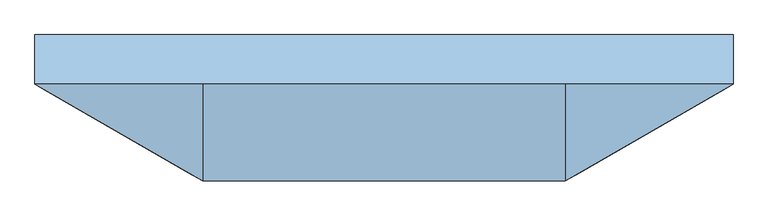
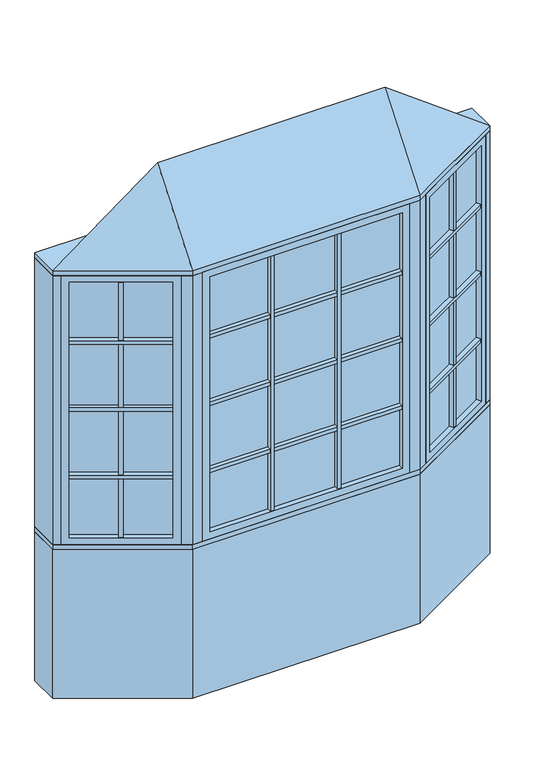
"""IFC4 building model written with IfcOpenShell, lengths in millimetres: window geometry, Pollard_Windows_Tudor Casement Bows and Bays : AML-BAY 30 AFR0614-10-500_GC."""

from ifc_helpers import new_model, si_unit, frame, origin, origin_with_axes, place, context, project, spatial, polyline, outline, extrude, faceted_brep, source, transform, mapped, element, save


def window_aa42a1c5(model_context):
    return source(origin(), model_context, "Body", "SolidModel", [
        extrude(outline(polyline([(632.2305346, -327.3537343), (621.2305346, -308.3011754), (1002.1135794, -88.3982469), (1013.1135794, -107.4508058), (632.2305346, -327.3537343)])), frame((0.0, 0.0, 1490.998), z_axis=(0.0, 0.0, 1.0), x_axis=(1.0, 0.0, 0.0)), (0.0, 0.0, 1.0), 18.0),
        extrude(outline(polyline([(618.6905346, -303.9017664), (607.6905346, -284.8492075), (988.5735794, -64.946279), (999.5735794, -83.9988379), (618.6905346, -303.9017664)])), frame((0.0, 0.0, 1490.998), z_axis=(0.0, 0.0, 1.0), x_axis=(1.0, 0.0, 0.0)), (0.0, 0.0, 1.0), 18.0),
        extrude(outline(polyline([(632.2305346, -327.3537343), (621.2305346, -308.3011754), (1002.1135794, -88.3982469), (1013.1135794, -107.4508058), (632.2305346, -327.3537343)])), frame((0.0, 0.0, 1140.998), z_axis=(0.0, 0.0, 1.0), x_axis=(1.0, 0.0, 0.0)), (0.0, 0.0, 1.0), 18.0),
        extrude(outline(polyline([(618.6905346, -303.9017664), (607.6905346, -284.8492075), (988.5735794, -64.946279), (999.5735794, -83.9988379), (618.6905346, -303.9017664)])), frame((0.0, 0.0, 1140.998), z_axis=(0.0, 0.0, 1.0), x_axis=(1.0, 0.0, 0.0)), (0.0, 0.0, 1.0), 18.0),
        extrude(outline(polyline([(632.2305346, -327.3537343), (621.2305346, -308.3011754), (1002.1135794, -88.3982469), (1013.1135794, -107.4508058), (632.2305346, -327.3537343)])), frame((0.0, 0.0, 1490.998), z_axis=(0.0, 0.0, 1.0), x_axis=(1.0, 0.0, 0.0)), (0.0, 0.0, 1.0), 18.0),
        extrude(outline(polyline([(618.6905346, -303.9017664), (607.6905346, -284.8492075), (988.5735794, -64.946279), (999.5735794, -83.9988379), (618.6905346, -303.9017664)])), frame((0.0, 0.0, 1490.998), z_axis=(0.0, 0.0, 1.0), x_axis=(1.0, 0.0, 0.0)), (0.0, 0.0, 1.0), 18.0),
        extrude(outline(polyline([(632.2305346, -327.3537343), (621.2305346, -308.3011754), (1002.1135794, -88.3982469), (1013.1135794, -107.4508058), (632.2305346, -327.3537343)])), frame((0.0, 0.0, 1490.998), z_axis=(0.0, 0.0, 1.0), x_axis=(1.0, 0.0, 0.0)), (0.0, 0.0, 1.0), 18.0),
        extrude(outline(polyline([(618.6905346, -303.9017664), (607.6905346, -284.8492075), (988.5735794, -64.946279), (999.5735794, -83.9988379), (618.6905346, -303.9017664)])), frame((0.0, 0.0, 1490.998), z_axis=(0.0, 0.0, 1.0), x_axis=(1.0, 0.0, 0.0)), (0.0, 0.0, 1.0), 18.0),
        extrude(outline(polyline([(632.2305346, -327.3537343), (621.2305346, -308.3011754), (1002.1135794, -88.3982469), (1013.1135794, -107.4508058), (632.2305346, -327.3537343)])), frame((0.0, 0.0, 1840.998), z_axis=(0.0, 0.0, 1.0), x_axis=(1.0, 0.0, 0.0)), (0.0, 0.0, 1.0), 18.0),
        extrude(outline(polyline([(618.6905346, -303.9017664), (607.6905346, -284.8492075), (988.5735794, -64.946279), (999.5735794, -83.9988379), (618.6905346, -303.9017664)])), frame((0.0, 0.0, 1840.998), z_axis=(0.0, 0.0, 1.0), x_axis=(1.0, 0.0, 0.0)), (0.0, 0.0, 1.0), 18.0),
        extrude(outline(polyline([(819.4662856, -193.8497112), (830.4662856, -212.9022701), (814.8778284, -221.9022701), (803.8778284, -202.8497112), (819.4662856, -193.8497112)])), frame((0.0, 0.0, 835.8628), z_axis=(0.0, 0.0, 1.0), x_axis=(1.0, 0.0, 0.0)), (0.0, 0.0, 1.0), 1328.2704),
        extrude(outline(polyline([(816.9262856, -189.4503021), (801.3378284, -198.4503021), (790.3378284, -179.3977432), (805.9262856, -170.3977432), (816.9262856, -189.4503021)])), frame((0.0, 0.0, 835.8628), z_axis=(0.0, 0.0, 1.0), x_axis=(1.0, 0.0, 0.0)), (0.0, 0.0, 1.0), 1328.2704),
        extrude(outline(polyline([(1013.112102, -82.0482469), (610.2320119, -314.6511754), (607.6920119, -310.2517664), (1010.572102, -77.6488379), (1013.112102, -82.0482469)])), frame((0.0, 0.0, 823.1628), z_axis=(0.0, 0.0, 1.0), x_axis=(1.0, 0.0, 0.0)), (0.0, 0.0, 1.0), 1353.6704),
        faceted_brep([(1002.1135794, -88.3982469, 835.8628), (1014.8135794, -110.3952922, 835.8628), (1014.8135794, -110.3952922, 2164.1332), (1002.1135794, -88.3982469, 2164.1332), (1010.572102, -77.6488379, 823.1628), (1013.112102, -82.0482469, 823.1628), (1013.112102, -82.0482469, 2176.8332), (1010.572102, -77.6488379, 2176.8332), (986.8735794, -62.0017926, 835.8628), (999.5735794, -83.9988379, 835.8628), (999.5735794, -83.9988379, 2164.1332), (986.8735794, -62.0017926, 2164.1332), (1045.8734073, -92.4628922, 799.998), (1017.9334073, -44.0693926, 799.998), (1017.9334073, -44.0693926, 2199.998), (1045.8734073, -92.4628922, 2199.998), (633.9305346, -330.2982207, 2164.1332), (621.2305346, -308.3011754, 2164.1332), (610.2320119, -314.6511754, 2176.8332), (607.6920119, -310.2517664, 2176.8332), (618.6905346, -303.9017664, 2164.1332), (605.9905346, -281.9047211, 2164.1332), (574.9307067, -299.8371211, 2199.998), (602.8707067, -348.2306207, 2199.998), (633.9305346, -330.2982207, 835.8628), (621.2305346, -308.3011754, 835.8628), (610.2320119, -314.6511754, 823.1628), (607.6920119, -310.2517664, 823.1628), (618.6905346, -303.9017664, 835.8628), (605.9905346, -281.9047211, 835.8628), (574.9307067, -299.8371211, 799.998), (602.8707067, -348.2306207, 799.998)], [[[0, 1, 2, 3]], [[4, 5, 6, 7]], [[8, 9, 10, 11]], [[12, 13, 14, 15]], [[3, 2, 16, 17]], [[7, 6, 18, 19]], [[11, 10, 20, 21]], [[15, 14, 22, 23]], [[17, 16, 24, 25]], [[19, 18, 26, 27]], [[21, 20, 28, 29]], [[23, 22, 30, 31]], [[25, 24, 1, 0]], [[5, 26, 18, 6], [3, 17, 25, 0]], [[27, 26, 5, 4]], [[7, 19, 27, 4], [9, 28, 20, 10]], [[29, 28, 9, 8]], [[13, 30, 22, 14], [11, 21, 29, 8]], [[31, 30, 13, 12]], [[15, 23, 31, 12], [1, 24, 16, 2]]]),
        extrude(outline(polyline([(174.1350122, -347.8306207), (174.1350122, -369.8306207), (156.1350122, -369.8306207), (156.1350122, -347.8306207), (174.1350122, -347.8306207)])), frame((0.0, 0.0, 835.8628), z_axis=(0.0, 0.0, 1.0), x_axis=(1.0, 0.0, 0.0)), (0.0, 0.0, 1.0), 1328.2704),
        extrude(outline(polyline([(174.1350122, -342.7506207), (156.1350122, -342.7506207), (156.1350122, -320.7506207), (174.1350122, -320.7506207), (174.1350122, -342.7506207)])), frame((0.0, 0.0, 835.8628), z_axis=(0.0, 0.0, 1.0), x_axis=(1.0, 0.0, 0.0)), (0.0, 0.0, 1.0), 1328.2704),
        extrude(outline(polyline([(-156.1350122, -347.8306207), (-156.1350122, -369.8306207), (-174.1350122, -369.8306207), (-174.1350122, -347.8306207), (-156.1350122, -347.8306207)])), frame((0.0, 0.0, 835.8628), z_axis=(0.0, 0.0, 1.0), x_axis=(1.0, 0.0, 0.0)), (0.0, 0.0, 1.0), 1328.2704),
        extrude(outline(polyline([(-156.1350122, -342.7506207), (-174.1350122, -342.7506207), (-174.1350122, -320.7506207), (-156.1350122, -320.7506207), (-156.1350122, -342.7506207)])), frame((0.0, 0.0, 835.8628), z_axis=(0.0, 0.0, 1.0), x_axis=(1.0, 0.0, 0.0)), (0.0, 0.0, 1.0), 1328.2704),
        extrude(outline(polyline([(-473.7046365, -369.8306207), (-473.7046365, -347.8306207), (473.7046365, -347.8306207), (473.7046365, -369.8306207), (-473.7046365, -369.8306207)])), frame((0.0, 0.0, 1140.998), z_axis=(0.0, 0.0, 1.0), x_axis=(1.0, 0.0, 0.0)), (0.0, 0.0, 1.0), 18.0),
        extrude(outline(polyline([(-473.7046365, -342.7506207), (-473.7046365, -320.7506207), (473.7046365, -320.7506207), (473.7046365, -342.7506207), (-473.7046365, -342.7506207)])), frame((0.0, 0.0, 1140.998), z_axis=(0.0, 0.0, 1.0), x_axis=(1.0, 0.0, 0.0)), (0.0, 0.0, 1.0), 18.0),
        extrude(outline(polyline([(-473.7046365, -369.8306207), (-473.7046365, -347.8306207), (473.7046365, -347.8306207), (473.7046365, -369.8306207), (-473.7046365, -369.8306207)])), frame((0.0, 0.0, 1490.998), z_axis=(0.0, 0.0, 1.0), x_axis=(1.0, 0.0, 0.0)), (0.0, 0.0, 1.0), 18.0),
        extrude(outline(polyline([(-473.7046365, -342.7506207), (-473.7046365, -320.7506207), (473.7046365, -320.7506207), (473.7046365, -342.7506207), (-473.7046365, -342.7506207)])), frame((0.0, 0.0, 1490.998), z_axis=(0.0, 0.0, 1.0), x_axis=(1.0, 0.0, 0.0)), (0.0, 0.0, 1.0), 18.0),
        extrude(outline(polyline([(-473.7046365, -369.8306207), (-473.7046365, -347.8306207), (473.7046365, -347.8306207), (473.7046365, -369.8306207), (-473.7046365, -369.8306207)])), frame((0.0, 0.0, 1490.998), z_axis=(0.0, 0.0, 1.0), x_axis=(1.0, 0.0, 0.0)), (0.0, 0.0, 1.0), 18.0),
        extrude(outline(polyline([(-473.7046365, -342.7506207), (-473.7046365, -320.7506207), (473.7046365, -320.7506207), (473.7046365, -342.7506207), (-473.7046365, -342.7506207)])), frame((0.0, 0.0, 1490.998), z_axis=(0.0, 0.0, 1.0), x_axis=(1.0, 0.0, 0.0)), (0.0, 0.0, 1.0), 18.0),
        extrude(outline(polyline([(-473.7046365, -369.8306207), (-473.7046365, -347.8306207), (473.7046365, -347.8306207), (473.7046365, -369.8306207), (-473.7046365, -369.8306207)])), frame((0.0, 0.0, 1490.998), z_axis=(0.0, 0.0, 1.0), x_axis=(1.0, 0.0, 0.0)), (0.0, 0.0, 1.0), 18.0),
        extrude(outline(polyline([(-473.7046365, -342.7506207), (-473.7046365, -320.7506207), (473.7046365, -320.7506207), (473.7046365, -342.7506207), (-473.7046365, -342.7506207)])), frame((0.0, 0.0, 1490.998), z_axis=(0.0, 0.0, 1.0), x_axis=(1.0, 0.0, 0.0)), (0.0, 0.0, 1.0), 18.0),
        extrude(outline(polyline([(-1013.1135794, -107.4508058), (-1002.1135794, -88.3982469), (-621.2305346, -308.3011754), (-632.2305346, -327.3537343), (-1013.1135794, -107.4508058)])), frame((0.0, 0.0, 1140.998), z_axis=(0.0, 0.0, 1.0), x_axis=(1.0, 0.0, 0.0)), (0.0, 0.0, 1.0), 18.0),
        extrude(outline(polyline([(-999.5735794, -83.9988379), (-988.5735794, -64.946279), (-607.6905346, -284.8492075), (-618.6905346, -303.9017664), (-999.5735794, -83.9988379)])), frame((0.0, 0.0, 1140.998), z_axis=(0.0, 0.0, 1.0), x_axis=(1.0, 0.0, 0.0)), (0.0, 0.0, 1.0), 18.0),
        extrude(outline(polyline([(-1013.1135794, -107.4508058), (-1002.1135794, -88.3982469), (-621.2305346, -308.3011754), (-632.2305346, -327.3537343), (-1013.1135794, -107.4508058)])), frame((0.0, 0.0, 1490.998), z_axis=(0.0, 0.0, 1.0), x_axis=(1.0, 0.0, 0.0)), (0.0, 0.0, 1.0), 18.0),
        extrude(outline(polyline([(-999.5735794, -83.9988379), (-988.5735794, -64.946279), (-607.6905346, -284.8492075), (-618.6905346, -303.9017664), (-999.5735794, -83.9988379)])), frame((0.0, 0.0, 1490.998), z_axis=(0.0, 0.0, 1.0), x_axis=(1.0, 0.0, 0.0)), (0.0, 0.0, 1.0), 18.0),
        extrude(outline(polyline([(-1013.1135794, -107.4508058), (-1002.1135794, -88.3982469), (-621.2305346, -308.3011754), (-632.2305346, -327.3537343), (-1013.1135794, -107.4508058)])), frame((0.0, 0.0, 1490.998), z_axis=(0.0, 0.0, 1.0), x_axis=(1.0, 0.0, 0.0)), (0.0, 0.0, 1.0), 18.0),
        extrude(outline(polyline([(-999.5735794, -83.9988379), (-988.5735794, -64.946279), (-607.6905346, -284.8492075), (-618.6905346, -303.9017664), (-999.5735794, -83.9988379)])), frame((0.0, 0.0, 1490.998), z_axis=(0.0, 0.0, 1.0), x_axis=(1.0, 0.0, 0.0)), (0.0, 0.0, 1.0), 18.0),
        extrude(outline(polyline([(-1013.1135794, -107.4508058), (-1002.1135794, -88.3982469), (-621.2305346, -308.3011754), (-632.2305346, -327.3537343), (-1013.1135794, -107.4508058)])), frame((0.0, 0.0, 1490.998), z_axis=(0.0, 0.0, 1.0), x_axis=(1.0, 0.0, 0.0)), (0.0, 0.0, 1.0), 18.0),
        extrude(outline(polyline([(-999.5735794, -83.9988379), (-988.5735794, -64.946279), (-607.6905346, -284.8492075), (-618.6905346, -303.9017664), (-999.5735794, -83.9988379)])), frame((0.0, 0.0, 1490.998), z_axis=(0.0, 0.0, 1.0), x_axis=(1.0, 0.0, 0.0)), (0.0, 0.0, 1.0), 18.0),
        extrude(outline(polyline([(-1013.1135794, -107.4508058), (-1002.1135794, -88.3982469), (-621.2305346, -308.3011754), (-632.2305346, -327.3537343), (-1013.1135794, -107.4508058)])), frame((0.0, 0.0, 1840.998), z_axis=(0.0, 0.0, 1.0), x_axis=(1.0, 0.0, 0.0)), (0.0, 0.0, 1.0), 18.0),
        extrude(outline(polyline([(-999.5735794, -83.9988379), (-988.5735794, -64.946279), (-607.6905346, -284.8492075), (-618.6905346, -303.9017664), (-999.5735794, -83.9988379)])), frame((0.0, 0.0, 1840.998), z_axis=(0.0, 0.0, 1.0), x_axis=(1.0, 0.0, 0.0)), (0.0, 0.0, 1.0), 18.0),
        extrude(outline(polyline([(-473.7046365, -369.8306207), (-473.7046365, -347.8306207), (473.7046365, -347.8306207), (473.7046365, -369.8306207), (-473.7046365, -369.8306207)])), frame((0.0, 0.0, 1840.998), z_axis=(0.0, 0.0, 1.0), x_axis=(1.0, 0.0, 0.0)), (0.0, 0.0, 1.0), 18.0),
        extrude(outline(polyline([(-473.7046365, -342.7506207), (-473.7046365, -320.7506207), (473.7046365, -320.7506207), (473.7046365, -342.7506207), (-473.7046365, -342.7506207)])), frame((0.0, 0.0, 1840.998), z_axis=(0.0, 0.0, 1.0), x_axis=(1.0, 0.0, 0.0)), (0.0, 0.0, 1.0), 18.0),
        extrude(outline(polyline([(-803.8778284, -202.8497112), (-814.8778284, -221.9022701), (-830.4662856, -212.9022701), (-819.4662856, -193.8497112), (-803.8778284, -202.8497112)])), frame((0.0, 0.0, 835.8628), z_axis=(0.0, 0.0, 1.0), x_axis=(1.0, 0.0, 0.0)), (0.0, 0.0, 1.0), 1328.2704),
        extrude(outline(polyline([(-801.3378284, -198.4503021), (-816.9262856, -189.4503021), (-805.9262856, -170.3977432), (-790.3378284, -179.3977432), (-801.3378284, -198.4503021)])), frame((0.0, 0.0, 835.8628), z_axis=(0.0, 0.0, 1.0), x_axis=(1.0, 0.0, 0.0)), (0.0, 0.0, 1.0), 1328.2704),
        extrude(outline(polyline([(-610.2320119, -314.6511754), (-1013.112102, -82.0482469), (-1010.572102, -77.6488379), (-607.6920119, -310.2517664), (-610.2320119, -314.6511754)])), frame((0.0, 0.0, 823.1628), z_axis=(0.0, 0.0, 1.0), x_axis=(1.0, 0.0, 0.0)), (0.0, 0.0, 1.0), 1353.6704),
        faceted_brep([(-618.6905346, -303.9017664, 2164.1332), (-605.9905346, -281.9047211, 2164.1332), (-605.9905346, -281.9047211, 835.8628), (-618.6905346, -303.9017664, 835.8628), (-610.2320119, -314.6511754, 2176.8332), (-607.6920119, -310.2517664, 2176.8332), (-607.6920119, -310.2517664, 823.1628), (-610.2320119, -314.6511754, 823.1628), (-633.9305346, -330.2982207, 2164.1332), (-621.2305346, -308.3011754, 2164.1332), (-621.2305346, -308.3011754, 835.8628), (-633.9305346, -330.2982207, 835.8628), (-574.9307067, -299.8371211, 2199.998), (-602.8707067, -348.2306207, 2199.998), (-602.8707067, -348.2306207, 799.998), (-574.9307067, -299.8371211, 799.998), (-986.8735794, -62.0017926, 835.8628), (-999.5735794, -83.9988379, 835.8628), (-1010.572102, -77.6488379, 823.1628), (-1013.112102, -82.0482469, 823.1628), (-1002.1135794, -88.3982469, 835.8628), (-1014.8135794, -110.3952922, 835.8628), (-1045.8734073, -92.4628922, 799.998), (-1017.9334073, -44.0693926, 799.998), (-986.8735794, -62.0017926, 2164.1332), (-999.5735794, -83.9988379, 2164.1332), (-1010.572102, -77.6488379, 2176.8332), (-1013.112102, -82.0482469, 2176.8332), (-1002.1135794, -88.3982469, 2164.1332), (-1014.8135794, -110.3952922, 2164.1332), (-1045.8734073, -92.4628922, 2199.998), (-1017.9334073, -44.0693926, 2199.998)], [[[0, 1, 2, 3]], [[4, 5, 6, 7]], [[8, 9, 10, 11]], [[12, 13, 14, 15]], [[3, 2, 16, 17]], [[7, 6, 18, 19]], [[11, 10, 20, 21]], [[15, 14, 22, 23]], [[17, 16, 24, 25]], [[19, 18, 26, 27]], [[21, 20, 28, 29]], [[23, 22, 30, 31]], [[15, 23, 31, 12], [1, 24, 16, 2]], [[25, 24, 1, 0]], [[5, 26, 18, 6], [3, 17, 25, 0]], [[27, 26, 5, 4]], [[7, 19, 27, 4], [9, 28, 20, 10]], [[29, 28, 9, 8]], [[13, 30, 22, 14], [11, 21, 29, 8]], [[31, 30, 13, 12]]]),
        extrude(outline(polyline([(486.4046365, -347.8306207), (-486.4046365, -347.8306207), (-486.4046365, -342.7506207), (486.4046365, -342.7506207), (486.4046365, -347.8306207)])), frame((0.0, 0.0, 823.1628), z_axis=(0.0, 0.0, 1.0), x_axis=(1.0, 0.0, 0.0)), (0.0, 0.0, 1.0), 1353.6704),
        faceted_brep([(473.7046365, -347.8306207, 835.8628), (473.7046365, -373.2306207, 835.8628), (473.7046365, -373.2306207, 2164.1332), (473.7046365, -347.8306207, 2164.1332), (486.4046365, -342.7506207, 823.1628), (486.4046365, -347.8306207, 823.1628), (486.4046365, -347.8306207, 2176.8332), (486.4046365, -342.7506207, 2176.8332), (473.7046365, -317.3506207, 835.8628), (473.7046365, -342.7506207, 835.8628), (473.7046365, -342.7506207, 2164.1332), (473.7046365, -317.3506207, 2164.1332), (509.5694365, -373.2306207, 799.998), (509.5694365, -317.3506207, 799.998), (509.5694365, -317.3506207, 2199.998), (509.5694365, -373.2306207, 2199.998), (-473.7046365, -373.2306207, 2164.1332), (-473.7046365, -347.8306207, 2164.1332), (-486.4046365, -347.8306207, 2176.8332), (-486.4046365, -342.7506207, 2176.8332), (-473.7046365, -342.7506207, 2164.1332), (-473.7046365, -317.3506207, 2164.1332), (-509.5694365, -317.3506207, 2199.998), (-509.5694365, -373.2306207, 2199.998), (-473.7046365, -373.2306207, 835.8628), (-473.7046365, -347.8306207, 835.8628), (-486.4046365, -347.8306207, 823.1628), (-486.4046365, -342.7506207, 823.1628), (-473.7046365, -342.7506207, 835.8628), (-473.7046365, -317.3506207, 835.8628), (-509.5694365, -317.3506207, 799.998), (-509.5694365, -373.2306207, 799.998)], [[[0, 1, 2, 3]], [[4, 5, 6, 7]], [[8, 9, 10, 11]], [[12, 13, 14, 15]], [[3, 2, 16, 17]], [[7, 6, 18, 19]], [[11, 10, 20, 21]], [[15, 14, 22, 23]], [[17, 16, 24, 25]], [[19, 18, 26, 27]], [[21, 20, 28, 29]], [[23, 22, 30, 31]], [[15, 23, 31, 12], [1, 24, 16, 2]], [[25, 24, 1, 0]], [[5, 26, 18, 6], [3, 17, 25, 0]], [[27, 26, 5, 4]], [[7, 19, 27, 4], [9, 28, 20, 10]], [[29, 28, 9, 8]], [[13, 30, 22, 14], [11, 21, 29, 8]], [[31, 30, 13, 12]]]),
        faceted_brep([(1076.5, -74.7806207, 2225.398), (559.5694365, -373.2306207, 2225.398), (-559.5694365, -373.2306207, 2225.398), (-1076.5, -74.7806207, 2225.398), (-559.5694365, -74.7806207, 2606.398), (559.5694365, -74.7806207, 2606.398)], [[[0, 1, 2, 3]], [[3, 2, 4]], [[2, 1, 5, 4]], [[1, 0, 5]], [[0, 3, 4, 5]]]),
        extrude(outline(polyline([(-1076.5, 77.6193793), (1076.5, 77.6193793), (1076.5, -74.7806207), (559.5694365, -373.2306207), (-559.5694365, -373.2306207), (-1076.5, -74.7806207), (-1076.5, 77.6193793)])), frame((0.0, 0.0, 2199.998), z_axis=(0.0, 0.0, 1.0), x_axis=(1.0, 0.0, 0.0)), (0.0, 0.0, 1.0), 25.4),
        extrude(outline(polyline([(-1076.5, -74.7806207), (-1076.5, 77.6193793), (-1035.6645431, 77.6193793), (-1035.6645431, -74.7806207), (-1045.8734073, -92.4628922), (-1076.5, -74.7806207)])), frame((0.0, 0.0, 799.998), z_axis=(0.0, 0.0, 1.0), x_axis=(1.0, 0.0, 0.0)), (0.0, 0.0, 1.0), 1400.0),
        extrude(outline(polyline([(1076.5, 77.6193793), (1076.5, -74.7806207), (1045.8734073, -92.4628922), (1035.6645431, -74.7806207), (1035.6645431, 77.6193793), (1076.5, 77.6193793)])), frame((0.0, 0.0, 799.998), z_axis=(0.0, 0.0, 1.0), x_axis=(1.0, 0.0, 0.0)), (0.0, 0.0, 1.0), 1400.0),
        extrude(outline(polyline([(559.5694365, -373.2306207), (509.5694365, -373.2306207), (509.5694365, -323.2306207), (546.1719769, -323.2306207), (577.8707067, -304.9293505), (602.8707067, -348.2306207), (559.5694365, -373.2306207)])), frame((0.0, 0.0, 799.998), z_axis=(0.0, 0.0, 1.0), x_axis=(1.0, 0.0, 0.0)), (0.0, 0.0, 1.0), 1400.0),
        extrude(outline(polyline([(-559.5694365, -373.2306207), (-602.8707067, -348.2306207), (-577.8707067, -304.9293505), (-546.1719769, -323.2306207), (-509.5694365, -323.2306207), (-509.5694365, -373.2306207), (-559.5694365, -373.2306207)])), frame((0.0, 0.0, 799.998), z_axis=(0.0, 0.0, 1.0), x_axis=(1.0, 0.0, 0.0)), (0.0, 0.0, 1.0), 1400.0),
        extrude(outline(polyline([(-559.5694365, -373.2306207), (-1076.5, -74.7806207), (-1076.5, 77.6193793), (-1035.6645431, 77.6193793), (-518.7339796, -220.8306207), (518.7339796, -220.8306207), (1035.6645431, 77.6193793), (1076.5, 77.6193793), (1076.5, -74.7806207), (559.5694365, -373.2306207), (-559.5694365, -373.2306207)])), frame((0.0, 0.0, 774.598), z_axis=(0.0, 0.0, 1.0), x_axis=(1.0, 0.0, 0.0)), (0.0, 0.0, 1.0), 25.4),
        extrude(outline(polyline([(-1076.5, -74.7806207), (-1076.5, 77.6193793), (-1035.6645431, 77.6193793), (-518.7339796, -220.8306207), (518.7339796, -220.8306207), (1035.6645431, 77.6193793), (1076.5, 77.6193793), (1076.5, -74.7806207), (559.5694365, -373.2306207), (-559.5694365, -373.2306207), (-1076.5, -74.7806207)])), origin_with_axes(), (0.0, 0.0, 1.0), 774.598),
    ])


if __name__ == "__main__":
    model = new_model("IFC4")
    model_context = context("Model", 3, world=origin())
    ifc_project = project(units=[si_unit("LENGTHUNIT", "METRE", prefix="MILLI")], contexts=[model_context])
    site = spatial("IfcSite", under=ifc_project)
    building = spatial("IfcBuilding", under=site)
    placement = place(None, origin())
    window_shape = window_aa42a1c5(model_context)
    element("IfcWindow", 1, ObjectType="Pollard_Windows_Tudor Casement Bows and Bays : AML-BAY 30 AFR0614-10-500_GC", at=placement, inside=building, context=model_context, shape_type="MappedRepresentation", body=[
        mapped(window_shape, transform((0.0, 0.0, 0.0), x_axis=(1.0, 0.0, 0.0), y_axis=(0.0, 1.0, 0.0), z_axis=(0.0, 0.0, 1.0))),
    ])
    save(model, "model.ifc")
